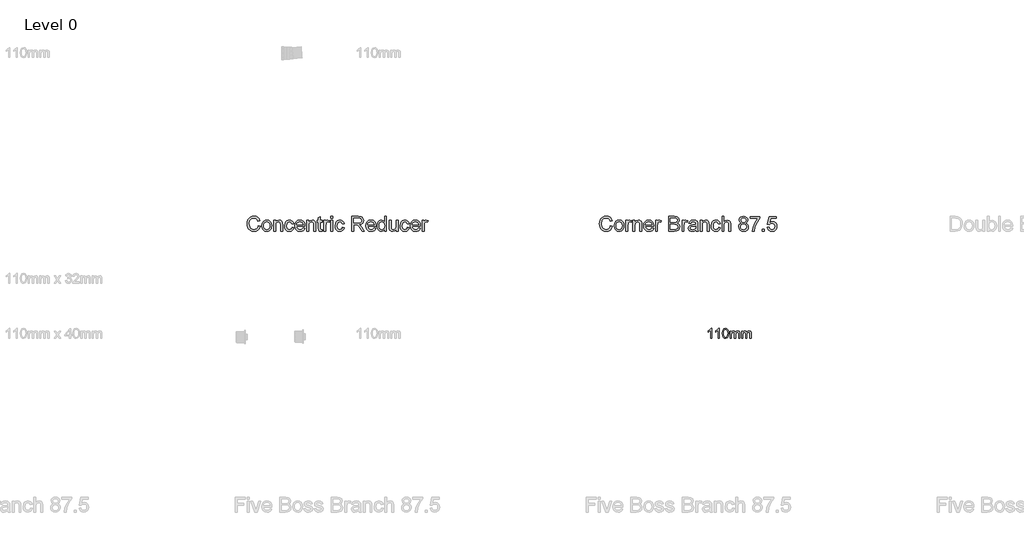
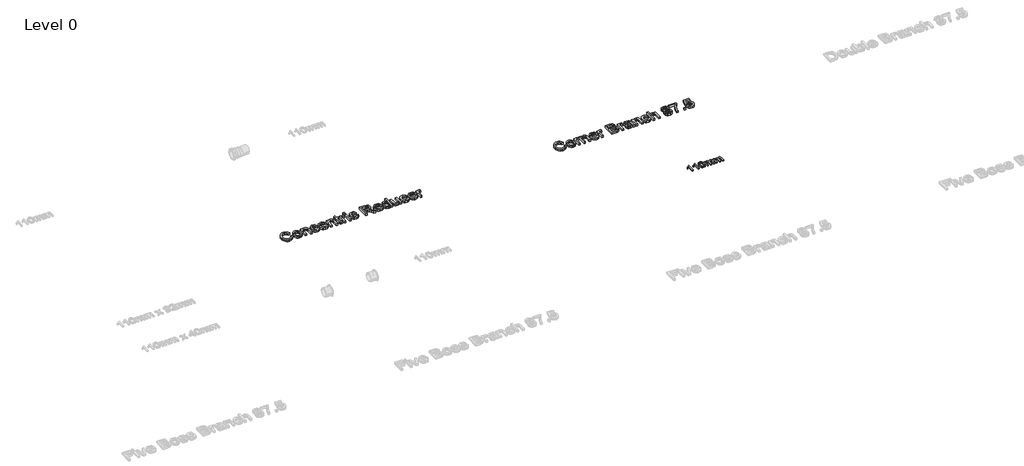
# One storey, part 18 of 23: 3 proxies.
"""IFC4 building model written with IfcOpenShell, lengths in millimetres."""

from ifc_helpers import new_model, si_unit, origin, origin_with_axes, place, context, project, spatial, polyline, outline, extrude, element, save

model = new_model("IFC4")

# Units and contexts
model_context = context("Model", 3, world=origin())
ifc_project = project(units=[si_unit("LENGTHUNIT", "METRE", prefix="MILLI")], contexts=[model_context])

# Site, building, storey
site = spatial("IfcSite", under=ifc_project)
building = spatial("IfcBuilding", under=site)
storey = spatial("IfcBuildingStorey", under=building, Name="Level 0", Elevation=0.0)

# Proxies
placement = place(None, origin())
element("IfcBuildingElementProxy", 1, Name="100mm Arial", ObjectType="100mm Arial", at=placement, inside=storey, context=model_context, shape_type="SweptSolid", body=[
    extrude(outline(polyline([(-3291.7293188, 5437.7167304), (-3304.0370111, 5437.7167304), (-3304.0370111, 5514.4474996), (-3315.6956649, 5506.1422111), (-3328.6523957, 5499.9282688), (-3328.6523957, 5511.5628842), (-3310.6115303, 5523.0773073), (-3299.6620111, 5536.1782688), (-3291.7293188, 5536.1782688), (-3291.7293188, 5437.7167304)])), origin_with_axes(), (0.0, 0.0, 1.0), 15.0),
    extrude(outline(polyline([(-3216.3447034, 5437.7167304), (-3228.6523957, 5437.7167304), (-3228.6523957, 5514.4474996), (-3240.3110495, 5506.1422111), (-3253.2677803, 5499.9282688), (-3253.2677803, 5511.5628842), (-3235.2269149, 5523.0773073), (-3224.2773957, 5536.1782688), (-3216.3447034, 5536.1782688), (-3216.3447034, 5437.7167304)])), origin_with_axes(), (0.0, 0.0, 1.0), 15.0),
    extrude(outline(polyline([(-3187.1139341, 5486.1542304), (-3183.4961457, 5514.4835573), (-3172.7509534, 5530.8176919), (-3154.8062418, 5536.1782688), (-3140.4312418, 5533.0051919), (-3130.5033572, 5523.8585573), (-3124.7341264, 5509.2912496), (-3122.4985495, 5486.1542304), (-3126.0802803, 5457.9450958), (-3136.7894149, 5441.5749035), (-3154.8062418, 5436.1782688), (-3167.5947034, 5438.5220188), (-3177.3062418, 5445.5532688), (-3184.6620111, 5462.2059131), (-3187.1139341, 5486.1542304)]), holes=[polyline([(-3174.8062418, 5486.1782688), (-3173.3639341, 5466.8182929), (-3169.0370111, 5455.613365), (-3162.5947034, 5450.2678121), (-3154.8062418, 5448.4859611), (-3147.0177803, 5450.2738217), (-3140.5754726, 5455.6374035), (-3136.2485495, 5466.848341), (-3134.8062418, 5486.1782688), (-3136.2004726, 5505.1025477), (-3140.3831649, 5516.394615), (-3146.8134534, 5522.0015861), (-3154.9504726, 5523.8705765), (-3162.6547995, 5522.2239419), (-3168.8447034, 5517.2840381), (-3173.3158572, 5505.2888458), (-3174.8062418, 5486.1782688)])]), origin_with_axes(), (0.0, 0.0, 1.0), 15.0),
    extrude(outline(polyline([(-3108.6523957, 5437.7167304), (-3108.6523957, 5510.0244227), (-3096.3447034, 5510.0244227), (-3096.3447034, 5498.1253842), (-3087.8831649, 5507.8729804), (-3075.8398957, 5511.5628842), (-3063.5081649, 5507.800865), (-3056.7293188, 5497.2599996), (-3047.1259534, 5507.9871631), (-3034.9985495, 5511.5628842), (-3025.7467466, 5510.0755044), (-3018.9047995, 5505.613365), (-3014.6770351, 5498.0562736), (-3013.2677803, 5487.2840381), (-3013.2677803, 5437.7167304), (-3025.5754726, 5437.7167304), (-3025.5754726, 5481.9955765), (-3026.7172995, 5492.2720188), (-3030.8519149, 5497.332115), (-3037.8831649, 5499.2551919), (-3049.9865303, 5494.3273073), (-3054.8062418, 5478.5340381), (-3054.8062418, 5437.7167304), (-3067.1139341, 5437.7167304), (-3067.1139341, 5483.3657688), (-3069.9624918, 5495.2888458), (-3079.3014341, 5499.2551919), (-3088.4120111, 5496.6109611), (-3094.4697034, 5488.8705765), (-3096.3447034, 5474.1830765), (-3096.3447034, 5437.7167304), (-3108.6523957, 5437.7167304)])), origin_with_axes(), (0.0, 0.0, 1.0), 15.0),
    extrude(outline(polyline([(-2994.8062418, 5437.7167304), (-2994.8062418, 5510.0244227), (-2982.4985495, 5510.0244227), (-2982.4985495, 5498.1253842), (-2974.0370111, 5507.8729804), (-2961.9937418, 5511.5628842), (-2949.6620111, 5507.800865), (-2942.8831649, 5497.2599996), (-2933.2797995, 5507.9871631), (-2921.1523957, 5511.5628842), (-2911.9005928, 5510.0755044), (-2905.0586457, 5505.613365), (-2900.8308813, 5498.0562736), (-2899.4216264, 5487.2840381), (-2899.4216264, 5437.7167304), (-2911.7293188, 5437.7167304), (-2911.7293188, 5481.9955765), (-2912.8711457, 5492.2720188), (-2917.0057611, 5497.332115), (-2924.0370111, 5499.2551919), (-2936.1403764, 5494.3273073), (-2940.960088, 5478.5340381), (-2940.960088, 5437.7167304), (-2953.2677803, 5437.7167304), (-2953.2677803, 5483.3657688), (-2956.116338, 5495.2888458), (-2965.4552803, 5499.2551919), (-2974.5658572, 5496.6109611), (-2980.6235495, 5488.8705765), (-2982.4985495, 5474.1830765), (-2982.4985495, 5437.7167304), (-2994.8062418, 5437.7167304)])), origin_with_axes(), (0.0, 0.0, 1.0), 15.0),
])
element("IfcBuildingElementProxy", 2, Name="150mm Arial", ObjectType="150mm Arial", at=placement, inside=storey, context=model_context, shape_type="SweptSolid", body=[
    extrude(outline(polyline([(-7814.835682, 6557.7145219), (-7796.3741435, 6552.9549065), (-7804.8927733, 6531.4419859), (-7818.2611627, 6515.7253392), (-7835.8212589, 6506.111457), (-7856.9150089, 6502.9068296), (-7878.3287709, 6505.3317094), (-7895.33448, 6512.6063488), (-7908.3693358, 6524.478344), (-7917.8705377, 6540.6952911), (-7923.671319, 6559.760796), (-7925.6049127, 6580.1784642), (-7923.4189151, 6601.713921), (-7916.8609223, 6620.3106758), (-7906.2734824, 6635.3782839), (-7891.9991435, 6646.3263008), (-7875.070057, 6652.9924666), (-7856.5183743, 6655.2145219), (-7836.2764872, 6652.338921), (-7819.5412108, 6643.7121181), (-7806.8353815, 6629.8659642), (-7798.6818358, 6611.3323104), (-7817.1433743, 6606.9332719), (-7823.5436147, 6620.3963128), (-7832.287605, 6629.6315892), (-7843.4835185, 6634.9726349), (-7857.2395281, 6636.7529835), (-7873.0958983, 6634.7788248), (-7886.1217397, 6628.8563488), (-7896.0060546, 6619.6075508), (-7902.4378454, 6607.6544258), (-7907.1433743, 6580.2145219), (-7901.5724608, 6548.4116373), (-7894.4510666, 6536.5351349), (-7884.2287108, 6528.0931277), (-7871.9736026, 6523.049558), (-7858.7539512, 6521.3683681), (-7843.3437949, 6523.6580315), (-7830.5027493, 6530.5270219), (-7820.8077372, 6541.9032238), (-7814.835682, 6557.7145219)])), origin_with_axes(), (0.0, 0.0, 1.0), 25.0),
    extrude(outline(polyline([(-7777.912605, 6559.4452911), (-7773.9192156, 6585.5961325), (-7761.9390473, 6603.9765411), (-7747.1373647, 6612.9819498), (-7729.4150089, 6615.9837527), (-7710.0204776, 6612.3284041), (-7694.5291916, 6601.3623585), (-7684.374444, 6583.9510003), (-7680.9895281, 6560.9597142), (-7682.4859223, 6542.3088729), (-7686.975105, 6528.1111565), (-7694.3263671, 6517.4786445), (-7704.4089993, 6509.5234161), (-7716.3846603, 6504.5609762), (-7729.4150089, 6502.9068296), (-7749.0439151, 6506.5486565), (-7764.5171723, 6517.4741373), (-7774.5637469, 6535.2505796), (-7777.912605, 6559.4452911)]), holes=[polyline([(-7759.4510666, 6559.4813488), (-7757.3146483, 6542.7731157), (-7750.9053935, 6530.86957), (-7741.2599608, 6523.7436686), (-7729.4150089, 6521.3683681), (-7717.6241435, 6523.7571902), (-7707.9967397, 6530.9236565), (-7701.5874848, 6542.9849546), (-7699.4510666, 6560.0582719), (-7701.6010065, 6576.2797262), (-7708.0508262, 6588.0210123), (-7717.6917517, 6595.1469137), (-7729.4150089, 6597.5222142), (-7741.2599608, 6595.1559282), (-7750.9053935, 6588.05707), (-7757.3146483, 6576.1805676), (-7759.4510666, 6559.4813488)])]), origin_with_axes(), (0.0, 0.0, 1.0), 25.0),
    extrude(outline(polyline([(-7660.2202973, 6505.2145219), (-7660.2202973, 6613.6760604), (-7641.7587589, 6613.6760604), (-7641.7587589, 6598.5318296), (-7627.6421723, 6611.6207719), (-7608.3693358, 6615.9837527), (-7590.9354416, 6612.4681277), (-7579.0364031, 6603.2373585), (-7573.5015473, 6589.6616373), (-7572.5279897, 6571.8130796), (-7572.5279897, 6505.2145219), (-7590.9895281, 6505.2145219), (-7590.9895281, 6569.3250988), (-7593.116932, 6585.6592335), (-7600.6349608, 6594.2950508), (-7613.3092397, 6597.5222142), (-7624.1220401, 6595.7103152), (-7633.3392877, 6590.2746181), (-7639.6538911, 6579.7728152), (-7641.7587589, 6562.7625988), (-7641.7587589, 6505.2145219), (-7660.2202973, 6505.2145219)])), origin_with_axes(), (0.0, 0.0, 1.0), 25.0),
    extrude(outline(polyline([(-7477.912605, 6544.4452911), (-7459.4510666, 6542.1375988), (-7464.5983022, 6525.7178272), (-7474.2707781, 6513.3094738), (-7487.5580377, 6505.5074907), (-7503.5496243, 6502.9068296), (-7523.1875449, 6506.5351349), (-7538.5436147, 6517.4200508), (-7548.4549728, 6535.0838128), (-7551.7587589, 6559.0486565), (-7546.11573, 6589.7157238), (-7538.9943358, 6601.2136205), (-7528.9162108, 6609.4212527), (-7516.8594199, 6614.3431277), (-7503.8020281, 6615.9837527), (-7488.202569, 6613.7301469), (-7475.7311147, 6606.9693296), (-7466.7842997, 6596.0618777), (-7461.7587589, 6581.3683681), (-7480.2202973, 6579.0606758), (-7488.7839993, 6592.8888008), (-7503.6577973, 6597.5222142), (-7515.5883863, 6595.2415652), (-7525.0580377, 6588.3996181), (-7531.2374247, 6576.6267815), (-7533.2972204, 6559.5534642), (-7531.2824969, 6542.2502791), (-7525.2383262, 6530.4368777), (-7515.9399488, 6523.6354955), (-7504.162605, 6521.3683681), (-7494.6028094, 6522.7836325), (-7486.7647685, 6527.0294258), (-7481.0631459, 6534.213921), (-7477.912605, 6544.4452911)])), origin_with_axes(), (0.0, 0.0, 1.0), 25.0),
    extrude(outline(polyline([(-7367.3597204, 6537.5222142), (-7349.2587589, 6535.2145219), (-7355.780694, 6521.5756998), (-7366.1878454, 6511.3803873), (-7380.2458382, 6505.025219), (-7397.7202973, 6502.9068296), (-7419.381956, 6506.5621782), (-7436.0496243, 6517.5282238), (-7446.6776291, 6535.0928272), (-7450.2202973, 6558.5438488), (-7446.6415714, 6582.7836325), (-7435.9053935, 6600.9116373), (-7419.4630858, 6612.2157238), (-7398.7659704, 6615.9837527), (-7378.7133863, 6612.2247383), (-7362.6902493, 6600.947695), (-7352.1839392, 6582.8557479), (-7348.6818358, 6558.6520219), (-7348.7900089, 6553.6760604), (-7431.7587589, 6553.6760604), (-7428.5631459, 6539.8569498), (-7421.1397685, 6529.697695), (-7410.4261267, 6523.4506998), (-7397.3597204, 6521.3683681), (-7379.2587589, 6525.2265411), (-7367.3597204, 6537.5222142)]), holes=[polyline([(-7431.7587589, 6572.1375988), (-7367.1433743, 6572.1375988), (-7369.6403695, 6581.8912046), (-7374.5352012, 6588.8683681), (-7385.2984223, 6595.3587527), (-7398.8380858, 6597.5222142), (-7411.2824969, 6595.7959522), (-7421.5724608, 6590.6171661), (-7428.7254055, 6582.5447503), (-7431.7587589, 6572.1375988)])]), origin_with_axes(), (0.0, 0.0, 1.0), 25.0),
    extrude(outline(polyline([(-7330.2202973, 6505.2145219), (-7330.2202973, 6613.6760604), (-7311.7587589, 6613.6760604), (-7311.7587589, 6598.5318296), (-7297.6421723, 6611.6207719), (-7278.3693358, 6615.9837527), (-7260.9354416, 6612.4681277), (-7249.0364031, 6603.2373585), (-7243.5015473, 6589.6616373), (-7242.5279897, 6571.8130796), (-7242.5279897, 6505.2145219), (-7260.9895281, 6505.2145219), (-7260.9895281, 6569.3250988), (-7263.116932, 6585.6592335), (-7270.6349608, 6594.2950508), (-7283.3092397, 6597.5222142), (-7294.1220401, 6595.7103152), (-7303.3392877, 6590.2746181), (-7309.6538911, 6579.7728152), (-7311.7587589, 6562.7625988), (-7311.7587589, 6505.2145219), (-7330.2202973, 6505.2145219)])), origin_with_axes(), (0.0, 0.0, 1.0), 25.0),
    extrude(outline(polyline([(-7177.912605, 6520.6111565), (-7175.6049127, 6504.6736565), (-7189.4150089, 6502.9068296), (-7204.8837589, 6505.9717335), (-7212.600105, 6514.0125988), (-7214.835682, 6534.9621181), (-7214.835682, 6595.2145219), (-7228.6818358, 6595.2145219), (-7228.6818358, 6613.6760604), (-7214.835682, 6613.6760604), (-7214.835682, 6640.0342335), (-7196.3741435, 6650.8875988), (-7196.3741435, 6613.6760604), (-7177.912605, 6613.6760604), (-7177.912605, 6595.2145219), (-7196.3741435, 6595.2145219), (-7196.3741435, 6535.5029835), (-7195.4005858, 6525.9837527), (-7192.2455377, 6522.6123585), (-7185.9534704, 6521.3683681), (-7177.912605, 6520.6111565)])), origin_with_axes(), (0.0, 0.0, 1.0), 25.0),
    extrude(outline(polyline([(-7159.4510666, 6505.2145219), (-7159.4510666, 6613.6760604), (-7143.2972204, 6613.6760604), (-7143.2972204, 6597.6303873), (-7131.8308743, 6612.4140411), (-7120.2924127, 6615.9837527), (-7101.7587589, 6610.2866373), (-7107.9246243, 6593.7361565), (-7120.9053935, 6597.5222142), (-7131.3440954, 6593.8803873), (-7137.9967397, 6583.7842335), (-7140.9895281, 6562.2217335), (-7140.9895281, 6505.2145219), (-7159.4510666, 6505.2145219)])), origin_with_axes(), (0.0, 0.0, 1.0), 25.0),
    extrude(outline(polyline([(-7090.2202973, 6634.4452911), (-7090.2202973, 6652.9068296), (-7071.7587589, 6652.9068296), (-7071.7587589, 6634.4452911), (-7090.2202973, 6634.4452911)])), origin_with_axes(), (0.0, 0.0, 1.0), 25.0),
    extrude(outline(polyline([(-7090.2202973, 6505.2145219), (-7090.2202973, 6613.6760604), (-7071.7587589, 6613.6760604), (-7071.7587589, 6505.2145219), (-7090.2202973, 6505.2145219)])), origin_with_axes(), (0.0, 0.0, 1.0), 25.0),
    extrude(outline(polyline([(-6974.835682, 6544.4452911), (-6956.3741435, 6542.1375988), (-6961.5213791, 6525.7178272), (-6971.193855, 6513.3094738), (-6984.4811147, 6505.5074907), (-7000.4727012, 6502.9068296), (-7020.1106219, 6506.5351349), (-7035.4666916, 6517.4200508), (-7045.3780497, 6535.0838128), (-7048.6818358, 6559.0486565), (-7043.038807, 6589.7157238), (-7035.9174127, 6601.2136205), (-7025.8392877, 6609.4212527), (-7013.7824969, 6614.3431277), (-7000.725105, 6615.9837527), (-6985.1256459, 6613.7301469), (-6972.6541916, 6606.9693296), (-6963.7073767, 6596.0618777), (-6958.6818358, 6581.3683681), (-6977.1433743, 6579.0606758), (-6985.7070762, 6592.8888008), (-7000.5808743, 6597.5222142), (-7012.5114632, 6595.2415652), (-7021.9811147, 6588.3996181), (-7028.1605017, 6576.6267815), (-7030.2202973, 6559.5534642), (-7028.2055738, 6542.2502791), (-7022.1614031, 6530.4368777), (-7012.8630257, 6523.6354955), (-7001.085682, 6521.3683681), (-6991.5258863, 6522.7836325), (-6983.6878454, 6527.0294258), (-6977.9862228, 6534.213921), (-6974.835682, 6544.4452911)])), origin_with_axes(), (0.0, 0.0, 1.0), 25.0),
    extrude(outline(polyline([(-6880.2202973, 6505.2145219), (-6880.2202973, 6652.9068296), (-6816.5784704, 6652.9068296), (-6787.0291916, 6648.9224546), (-6777.9336387, 6643.4056277), (-6770.8753454, 6634.8238969), (-6766.3455978, 6624.1823705), (-6764.835682, 6612.4861565), (-6767.3371844, 6597.9368777), (-6774.8416916, 6585.8755796), (-6787.5745642, 6577.0324306), (-6805.7611627, 6572.1375988), (-6795.2683743, 6564.2409642), (-6780.304432, 6545.2385604), (-6755.6770281, 6505.2145219), (-6777.131355, 6505.2145219), (-6796.350105, 6535.8275027), (-6810.2323166, 6556.0919258), (-6819.9859223, 6565.6652431), (-6828.7659704, 6569.1808681), (-6839.475105, 6569.8299065), (-6861.7587589, 6569.8299065), (-6861.7587589, 6505.2145219), (-6880.2202973, 6505.2145219)]), holes=[polyline([(-6861.7587589, 6588.291445), (-6820.4366435, 6588.291445), (-6799.3609223, 6590.9056277), (-6787.3897685, 6599.2710123), (-6783.2972204, 6611.8010604), (-6785.248843, 6620.806469), (-6791.1037108, 6628.0630796), (-6801.1773286, 6632.8497383), (-6815.7852012, 6634.4452911), (-6861.7587589, 6634.4452911), (-6861.7587589, 6588.291445)])]), origin_with_axes(), (0.0, 0.0, 1.0), 25.0),
    extrude(outline(polyline([(-6658.898182, 6537.5222142), (-6640.7972204, 6535.2145219), (-6647.3191555, 6521.5756998), (-6657.726307, 6511.3803873), (-6671.7842997, 6505.025219), (-6689.2587589, 6502.9068296), (-6710.9204175, 6506.5621782), (-6727.5880858, 6517.5282238), (-6738.2160906, 6535.0928272), (-6741.7587589, 6558.5438488), (-6738.1800329, 6582.7836325), (-6727.443855, 6600.9116373), (-6711.0015473, 6612.2157238), (-6690.304432, 6615.9837527), (-6670.2518478, 6612.2247383), (-6654.2287108, 6600.947695), (-6643.7224007, 6582.8557479), (-6640.2202973, 6558.6520219), (-6640.3284704, 6553.6760604), (-6723.2972204, 6553.6760604), (-6720.1016074, 6539.8569498), (-6712.67823, 6529.697695), (-6701.9645882, 6523.4506998), (-6688.898182, 6521.3683681), (-6670.7972204, 6525.2265411), (-6658.898182, 6537.5222142)]), holes=[polyline([(-6723.2972204, 6572.1375988), (-6658.6818358, 6572.1375988), (-6661.178831, 6581.8912046), (-6666.0736627, 6588.8683681), (-6676.8368839, 6595.3587527), (-6690.3765473, 6597.5222142), (-6702.8209584, 6595.7959522), (-6713.1109223, 6590.6171661), (-6720.2638671, 6582.5447503), (-6723.2972204, 6572.1375988)])]), origin_with_axes(), (0.0, 0.0, 1.0), 25.0),
    extrude(outline(polyline([(-6554.835682, 6505.2145219), (-6554.835682, 6522.6303873), (-6567.0502252, 6507.837719), (-6583.9342397, 6502.9068296), (-6595.8693358, 6504.6916854), (-6606.7948166, 6510.0462527), (-6616.0436147, 6518.596433), (-6622.9486627, 6529.9681277), (-6627.2485425, 6543.7016012), (-6628.6818358, 6559.3371181), (-6623.3993839, 6588.7241373), (-6616.8008262, 6600.3797863), (-6607.570057, 6608.9525027), (-6596.405694, 6614.2259402), (-6584.006355, 6615.9837527), (-6566.9871243, 6610.9537046), (-6554.835682, 6597.8827911), (-6554.835682, 6652.9068296), (-6536.3741435, 6652.9068296), (-6536.3741435, 6505.2145219), (-6554.835682, 6505.2145219)]), holes=[polyline([(-6610.2202973, 6559.4092335), (-6608.1379656, 6542.7100147), (-6601.8909704, 6530.8335123), (-6592.8134464, 6523.7346541), (-6582.2395281, 6521.3683681), (-6571.6701171, 6523.6264811), (-6562.8224608, 6530.40082), (-6556.8323767, 6541.8175868), (-6554.835682, 6558.0029835), (-6556.8684344, 6575.698296), (-6562.9666916, 6587.9669258), (-6572.0397084, 6595.1333921), (-6582.9967397, 6597.5222142), (-6593.678831, 6595.2280436), (-6602.4318358, 6588.3455315), (-6608.273182, 6576.5231157), (-6610.2202973, 6559.4092335)])]), origin_with_axes(), (0.0, 0.0, 1.0), 25.0),
    extrude(outline(polyline([(-6439.4510666, 6505.2145219), (-6439.4510666, 6523.8563488), (-6453.9102012, 6508.1442094), (-6472.7683743, 6502.9068296), (-6490.1301531, 6506.5847142), (-6502.101307, 6515.8154835), (-6507.600105, 6529.4092335), (-6508.6818358, 6546.572695), (-6508.6818358, 6613.6760604), (-6490.2202973, 6613.6760604), (-6490.2202973, 6555.2625988), (-6489.1025089, 6536.4404835), (-6481.8008262, 6525.3888008), (-6468.0448166, 6521.3683681), (-6452.6301531, 6525.478945), (-6442.443855, 6536.6748585), (-6439.4510666, 6557.2457719), (-6439.4510666, 6613.6760604), (-6420.9895281, 6613.6760604), (-6420.9895281, 6505.2145219), (-6439.4510666, 6505.2145219)])), origin_with_axes(), (0.0, 0.0, 1.0), 25.0),
    extrude(outline(polyline([(-6326.3741435, 6544.4452911), (-6307.912605, 6542.1375988), (-6313.0598406, 6525.7178272), (-6322.7323166, 6513.3094738), (-6336.0195762, 6505.5074907), (-6352.0111627, 6502.9068296), (-6371.6490834, 6506.5351349), (-6387.0051531, 6517.4200508), (-6396.9165113, 6535.0838128), (-6400.2202973, 6559.0486565), (-6394.5772685, 6589.7157238), (-6387.4558743, 6601.2136205), (-6377.3777493, 6609.4212527), (-6365.3209584, 6614.3431277), (-6352.2635666, 6615.9837527), (-6336.6641074, 6613.7301469), (-6324.1926531, 6606.9693296), (-6315.2458382, 6596.0618777), (-6310.2202973, 6581.3683681), (-6328.6818358, 6579.0606758), (-6337.2455377, 6592.8888008), (-6352.1193358, 6597.5222142), (-6364.0499247, 6595.2415652), (-6373.5195762, 6588.3996181), (-6379.6989632, 6576.6267815), (-6381.7587589, 6559.5534642), (-6379.7440353, 6542.2502791), (-6373.6998647, 6530.4368777), (-6364.4014872, 6523.6354955), (-6352.6241435, 6521.3683681), (-6343.0643478, 6522.7836325), (-6335.226307, 6527.0294258), (-6329.5246844, 6534.213921), (-6326.3741435, 6544.4452911)])), origin_with_axes(), (0.0, 0.0, 1.0), 25.0),
    extrude(outline(polyline([(-6215.8212589, 6537.5222142), (-6197.7202973, 6535.2145219), (-6204.2422324, 6521.5756998), (-6214.6493839, 6511.3803873), (-6228.7073767, 6505.025219), (-6246.1818358, 6502.9068296), (-6267.8434945, 6506.5621782), (-6284.5111627, 6517.5282238), (-6295.1391675, 6535.0928272), (-6298.6818358, 6558.5438488), (-6295.1031098, 6582.7836325), (-6284.366932, 6600.9116373), (-6267.9246243, 6612.2157238), (-6247.2275089, 6615.9837527), (-6227.1749247, 6612.2247383), (-6211.1517877, 6600.947695), (-6200.6454776, 6582.8557479), (-6197.1433743, 6558.6520219), (-6197.2515473, 6553.6760604), (-6280.2202973, 6553.6760604), (-6277.0246844, 6539.8569498), (-6269.601307, 6529.697695), (-6258.8876651, 6523.4506998), (-6245.8212589, 6521.3683681), (-6227.7202973, 6525.2265411), (-6215.8212589, 6537.5222142)]), holes=[polyline([(-6280.2202973, 6572.1375988), (-6215.6049127, 6572.1375988), (-6218.1019079, 6581.8912046), (-6222.9967397, 6588.8683681), (-6233.7599608, 6595.3587527), (-6247.2996243, 6597.5222142), (-6259.7440353, 6595.7959522), (-6270.0339993, 6590.6171661), (-6277.186944, 6582.5447503), (-6280.2202973, 6572.1375988)])]), origin_with_axes(), (0.0, 0.0, 1.0), 25.0),
    extrude(outline(polyline([(-6178.6818358, 6505.2145219), (-6178.6818358, 6613.6760604), (-6162.5279897, 6613.6760604), (-6162.5279897, 6597.6303873), (-6151.0616435, 6612.4140411), (-6139.523182, 6615.9837527), (-6120.9895281, 6610.2866373), (-6127.1553935, 6593.7361565), (-6140.1361627, 6597.5222142), (-6150.5748647, 6593.8803873), (-6157.2275089, 6583.7842335), (-6160.2202973, 6562.2217335), (-6160.2202973, 6505.2145219), (-6178.6818358, 6505.2145219)])), origin_with_axes(), (0.0, 0.0, 1.0), 25.0),
])
element("IfcBuildingElementProxy", 3, Name="150mm Arial", ObjectType="150mm Arial", at=placement, inside=storey, context=model_context, shape_type="SweptSolid", body=[
    extrude(outline(polyline([(-4302.1433743, 6557.7145219), (-4283.6818358, 6552.9549065), (-4292.2004656, 6531.4419859), (-4305.568855, 6515.7253392), (-4323.1289512, 6506.111457), (-4344.2227012, 6502.9068296), (-4365.6364632, 6505.3317094), (-4382.6421723, 6512.6063488), (-4395.6770281, 6524.478344), (-4405.17823, 6540.6952911), (-4410.9790113, 6559.760796), (-4412.912605, 6580.1784642), (-4410.7266074, 6601.713921), (-4404.1686147, 6620.3106758), (-4393.5811747, 6635.3782839), (-4379.3068358, 6646.3263008), (-4362.3777493, 6652.9924666), (-4343.8260666, 6655.2145219), (-4323.5841796, 6652.338921), (-4306.8489031, 6643.7121181), (-4294.1430738, 6629.8659642), (-4285.9895281, 6611.3323104), (-4304.4510666, 6606.9332719), (-4310.851307, 6620.3963128), (-4319.5952973, 6629.6315892), (-4330.7912108, 6634.9726349), (-4344.5472204, 6636.7529835), (-4360.4035906, 6634.7788248), (-4373.429432, 6628.8563488), (-4383.3137469, 6619.6075508), (-4389.7455377, 6607.6544258), (-4394.4510666, 6580.2145219), (-4388.8801531, 6548.4116373), (-4381.7587589, 6536.5351349), (-4371.5364031, 6528.0931277), (-4359.2812949, 6523.049558), (-4346.0616435, 6521.3683681), (-4330.6514872, 6523.6580315), (-4317.8104416, 6530.5270219), (-4308.1154296, 6541.9032238), (-4302.1433743, 6557.7145219)])), origin_with_axes(), (0.0, 0.0, 1.0), 25.0),
    extrude(outline(polyline([(-4265.2202973, 6559.4452911), (-4261.2269079, 6585.5961325), (-4249.2467397, 6603.9765411), (-4234.445057, 6612.9819498), (-4216.7227012, 6615.9837527), (-4197.3281699, 6612.3284041), (-4181.8368839, 6601.3623585), (-4171.6821363, 6583.9510003), (-4168.2972204, 6560.9597142), (-4169.7936147, 6542.3088729), (-4174.2827973, 6528.1111565), (-4181.6340594, 6517.4786445), (-4191.7166916, 6509.5234161), (-4203.6923526, 6504.5609762), (-4216.7227012, 6502.9068296), (-4236.3516074, 6506.5486565), (-4251.8248647, 6517.4741373), (-4261.8714392, 6535.2505796), (-4265.2202973, 6559.4452911)]), holes=[polyline([(-4246.7587589, 6559.4813488), (-4244.6223406, 6542.7731157), (-4238.2130858, 6530.86957), (-4228.5676531, 6523.7436686), (-4216.7227012, 6521.3683681), (-4204.9318358, 6523.7571902), (-4195.304432, 6530.9236565), (-4188.8951772, 6542.9849546), (-4186.7587589, 6560.0582719), (-4188.9086988, 6576.2797262), (-4195.3585185, 6588.0210123), (-4204.999444, 6595.1469137), (-4216.7227012, 6597.5222142), (-4228.5676531, 6595.1559282), (-4238.2130858, 6588.05707), (-4244.6223406, 6576.1805676), (-4246.7587589, 6559.4813488)])]), origin_with_axes(), (0.0, 0.0, 1.0), 25.0),
    extrude(outline(polyline([(-4147.5279897, 6505.2145219), (-4147.5279897, 6613.6760604), (-4131.3741435, 6613.6760604), (-4131.3741435, 6597.6303873), (-4119.9077973, 6612.4140411), (-4108.3693358, 6615.9837527), (-4089.835682, 6610.2866373), (-4096.0015473, 6593.7361565), (-4108.9823166, 6597.5222142), (-4119.4210185, 6593.8803873), (-4126.0736627, 6583.7842335), (-4129.0664512, 6562.2217335), (-4129.0664512, 6505.2145219), (-4147.5279897, 6505.2145219)])), origin_with_axes(), (0.0, 0.0, 1.0), 25.0),
    extrude(outline(polyline([(-4078.2972204, 6505.2145219), (-4078.2972204, 6613.6760604), (-4059.835682, 6613.6760604), (-4059.835682, 6598.5318296), (-4045.7190954, 6611.6207719), (-4026.4462589, 6615.9837527), (-4009.0123647, 6612.4681277), (-3997.1133262, 6603.2373585), (-3991.5784704, 6589.6616373), (-3990.6049127, 6571.8130796), (-3990.6049127, 6505.2145219), (-4009.0664512, 6505.2145219), (-4009.0664512, 6569.3250988), (-4011.193855, 6585.6592335), (-4018.7118839, 6594.2950508), (-4031.3861627, 6597.5222142), (-4042.1989632, 6595.7103152), (-4051.4162108, 6590.2746181), (-4057.7308142, 6579.7728152), (-4059.835682, 6562.7625988), (-4059.835682, 6505.2145219), (-4078.2972204, 6505.2145219)])), origin_with_axes(), (0.0, 0.0, 1.0), 25.0),
    extrude(outline(polyline([(-3889.2827973, 6537.5222142), (-3871.1818358, 6535.2145219), (-3877.7037709, 6521.5756998), (-3888.1109223, 6511.3803873), (-3902.1689151, 6505.025219), (-3919.6433743, 6502.9068296), (-3941.3050329, 6506.5621782), (-3957.9727012, 6517.5282238), (-3968.600706, 6535.0928272), (-3972.1433743, 6558.5438488), (-3968.5646483, 6582.7836325), (-3957.8284704, 6600.9116373), (-3941.3861627, 6612.2157238), (-3920.6890473, 6615.9837527), (-3900.6364632, 6612.2247383), (-3884.6133262, 6600.947695), (-3874.1070161, 6582.8557479), (-3870.6049127, 6558.6520219), (-3870.7130858, 6553.6760604), (-3953.6818358, 6553.6760604), (-3950.4862228, 6539.8569498), (-3943.0628454, 6529.697695), (-3932.3492036, 6523.4506998), (-3919.2827973, 6521.3683681), (-3901.1818358, 6525.2265411), (-3889.2827973, 6537.5222142)]), holes=[polyline([(-3953.6818358, 6572.1375988), (-3889.0664512, 6572.1375988), (-3891.5634464, 6581.8912046), (-3896.4582781, 6588.8683681), (-3907.2214993, 6595.3587527), (-3920.7611627, 6597.5222142), (-3933.2055738, 6595.7959522), (-3943.4955377, 6590.6171661), (-3950.6484824, 6582.5447503), (-3953.6818358, 6572.1375988)])]), origin_with_axes(), (0.0, 0.0, 1.0), 25.0),
    extrude(outline(polyline([(-3852.1433743, 6505.2145219), (-3852.1433743, 6613.6760604), (-3835.9895281, 6613.6760604), (-3835.9895281, 6597.6303873), (-3824.523182, 6612.4140411), (-3812.9847204, 6615.9837527), (-3794.4510666, 6610.2866373), (-3800.616932, 6593.7361565), (-3813.5977012, 6597.5222142), (-3824.0364031, 6593.8803873), (-3830.6890473, 6583.7842335), (-3833.6818358, 6562.2217335), (-3833.6818358, 6505.2145219), (-3852.1433743, 6505.2145219)])), origin_with_axes(), (0.0, 0.0, 1.0), 25.0),
    extrude(outline(polyline([(-3722.912605, 6505.2145219), (-3722.912605, 6652.9068296), (-3666.554432, 6652.9068296), (-3638.9522685, 6648.5618777), (-3629.6764272, 6643.049558), (-3622.6541916, 6635.2025027), (-3616.7587589, 6616.3082719), (-3621.7166916, 6599.0546661), (-3636.6986627, 6585.9837527), (-3626.2374247, 6580.5210123), (-3618.507557, 6572.2097142), (-3613.7344199, 6561.5997383), (-3612.1433743, 6549.2409642), (-3616.4883262, 6529.3912046), (-3627.2515473, 6515.2565892), (-3643.3152493, 6507.7565892), (-3666.9871243, 6505.2145219), (-3722.912605, 6505.2145219)]), holes=[polyline([(-3704.4510666, 6523.6760604), (-3666.5904897, 6523.6760604), (-3652.8885666, 6524.3972142), (-3641.2960185, 6528.4176469), (-3633.61573, 6536.6207719), (-3630.6049127, 6549.0606758), (-3634.1385666, 6563.4116373), (-3645.5868839, 6571.9753392), (-3668.3933743, 6574.4452911), (-3704.4510666, 6574.4452911), (-3704.4510666, 6523.6760604)]), polyline([(-3704.4510666, 6592.9068296), (-3670.7371243, 6592.9068296), (-3651.0496243, 6594.4933681), (-3639.2046723, 6601.3263008), (-3635.2202973, 6613.3515411), (-3638.9342397, 6625.3948104), (-3649.5712589, 6632.5162046), (-3673.2972204, 6634.4452911), (-3704.4510666, 6634.4452911), (-3704.4510666, 6592.9068296)])]), origin_with_axes(), (0.0, 0.0, 1.0), 25.0),
    extrude(outline(polyline([(-3589.0664512, 6505.2145219), (-3589.0664512, 6613.6760604), (-3572.912605, 6613.6760604), (-3572.912605, 6597.6303873), (-3561.4462589, 6612.4140411), (-3549.9077973, 6615.9837527), (-3531.3741435, 6610.2866373), (-3537.5400089, 6593.7361565), (-3550.5207781, 6597.5222142), (-3560.95948, 6593.8803873), (-3567.6121243, 6583.7842335), (-3570.6049127, 6562.2217335), (-3570.6049127, 6505.2145219), (-3589.0664512, 6505.2145219)])), origin_with_axes(), (0.0, 0.0, 1.0), 25.0),
    extrude(outline(polyline([(-3450.6049127, 6519.0606758), (-3468.507557, 6506.5486565), (-3488.2852012, 6502.9068296), (-3503.7133863, 6505.0973344), (-3515.0940954, 6511.6688488), (-3522.1118238, 6521.6478152), (-3524.4510666, 6534.0606758), (-3520.9174127, 6548.6640411), (-3511.632557, 6559.2650027), (-3498.7058743, 6565.322695), (-3482.7323166, 6568.0991373), (-3450.7130858, 6574.4452911), (-3450.6049127, 6578.5558681), (-3451.8759464, 6586.7950508), (-3455.6890473, 6592.1856758), (-3464.2166916, 6596.1880796), (-3476.0977012, 6597.5222142), (-3494.7755858, 6593.9705315), (-3503.6818358, 6581.3683681), (-3522.1433743, 6583.6760604), (-3514.1565954, 6601.7049065), (-3498.0748647, 6612.2698104), (-3473.7178935, 6615.9837527), (-3451.3440954, 6612.7025027), (-3438.7058743, 6604.46332), (-3433.0448166, 6591.9332719), (-3432.1433743, 6575.7794258), (-3432.1433743, 6552.8106758), (-3431.2058743, 6520.7373585), (-3427.5279897, 6505.2145219), (-3445.9895281, 6505.2145219), (-3450.6049127, 6519.0606758)]), holes=[polyline([(-3450.6049127, 6555.9837527), (-3480.3885666, 6550.322695), (-3496.27198, 6547.3299065), (-3503.4654897, 6542.4621181), (-3505.9895281, 6535.3587527), (-3500.49073, 6525.3707719), (-3484.3549127, 6521.3683681), (-3465.6770281, 6525.7854354), (-3453.6337589, 6536.4765411), (-3450.7130858, 6550.7553873), (-3450.6049127, 6555.9837527)])]), origin_with_axes(), (0.0, 0.0, 1.0), 25.0),
    extrude(outline(polyline([(-3406.7587589, 6505.2145219), (-3406.7587589, 6613.6760604), (-3388.2972204, 6613.6760604), (-3388.2972204, 6598.5318296), (-3374.1806339, 6611.6207719), (-3354.9077973, 6615.9837527), (-3337.4739031, 6612.4681277), (-3325.5748647, 6603.2373585), (-3320.0400089, 6589.6616373), (-3319.0664512, 6571.8130796), (-3319.0664512, 6505.2145219), (-3337.5279897, 6505.2145219), (-3337.5279897, 6569.3250988), (-3339.6553935, 6585.6592335), (-3347.1734223, 6594.2950508), (-3359.8477012, 6597.5222142), (-3370.6605017, 6595.7103152), (-3379.8777493, 6590.2746181), (-3386.1923526, 6579.7728152), (-3388.2972204, 6562.7625988), (-3388.2972204, 6505.2145219), (-3406.7587589, 6505.2145219)])), origin_with_axes(), (0.0, 0.0, 1.0), 25.0),
    extrude(outline(polyline([(-3224.4510666, 6544.4452911), (-3205.9895281, 6542.1375988), (-3211.1367637, 6525.7178272), (-3220.8092397, 6513.3094738), (-3234.0964993, 6505.5074907), (-3250.0880858, 6502.9068296), (-3269.7260065, 6506.5351349), (-3285.0820762, 6517.4200508), (-3294.9934344, 6535.0838128), (-3298.2972204, 6559.0486565), (-3292.6541916, 6589.7157238), (-3285.5327973, 6601.2136205), (-3275.4546723, 6609.4212527), (-3263.3978815, 6614.3431277), (-3250.3404897, 6615.9837527), (-3234.7410305, 6613.7301469), (-3222.2695762, 6606.9693296), (-3213.3227613, 6596.0618777), (-3208.2972204, 6581.3683681), (-3226.7587589, 6579.0606758), (-3235.3224608, 6592.8888008), (-3250.1962589, 6597.5222142), (-3262.1268478, 6595.2415652), (-3271.5964993, 6588.3996181), (-3277.7758863, 6576.6267815), (-3279.835682, 6559.5534642), (-3277.8209584, 6542.2502791), (-3271.7767877, 6530.4368777), (-3262.4784103, 6523.6354955), (-3250.7010666, 6521.3683681), (-3241.1412709, 6522.7836325), (-3233.30323, 6527.0294258), (-3227.6016074, 6534.213921), (-3224.4510666, 6544.4452911)])), origin_with_axes(), (0.0, 0.0, 1.0), 25.0),
    extrude(outline(polyline([(-3189.835682, 6505.2145219), (-3189.835682, 6652.9068296), (-3171.3741435, 6652.9068296), (-3171.3741435, 6598.603945), (-3156.9781098, 6611.6388008), (-3139.2467397, 6615.9837527), (-3118.5135666, 6611.2421661), (-3105.929432, 6598.135195), (-3102.1433743, 6573.8683681), (-3102.1433743, 6505.2145219), (-3120.6049127, 6505.2145219), (-3120.6049127, 6571.9573104), (-3122.0742637, 6583.5138008), (-3126.4823166, 6591.4284642), (-3133.585682, 6595.9987767), (-3143.1409704, 6597.5222142), (-3158.2671723, 6593.4116373), (-3168.3633262, 6582.2698104), (-3171.3741435, 6562.8347142), (-3171.3741435, 6505.2145219), (-3189.835682, 6505.2145219)])), origin_with_axes(), (0.0, 0.0, 1.0), 25.0),
    extrude(outline(polyline([(-2996.7827973, 6586.5606758), (-3013.6037108, 6598.0270219), (-3019.0664512, 6615.8755796), (-3016.0916916, 6630.307671), (-3007.1674127, 6642.2337527), (-2993.2942156, 6650.2385604), (-2975.4727012, 6652.9068296), (-2957.5430137, 6650.1754594), (-2943.4895281, 6641.9813488), (-2934.4029897, 6629.8659642), (-2931.3741435, 6615.3707719), (-2936.7647685, 6597.9729354), (-2953.116932, 6586.5606758), (-2941.7542517, 6580.705808), (-2933.4835185, 6572.0835123), (-2928.4399488, 6561.1084522), (-2926.7587589, 6548.1952911), (-2930.0940954, 6530.5450508), (-2940.100105, 6515.9597142), (-2955.5508262, 6506.1700508), (-2975.2202973, 6502.9068296), (-2994.8897685, 6506.1835724), (-3010.3404897, 6516.0138008), (-3020.3464993, 6530.7388609), (-3023.6818358, 6548.7000988), (-3021.9330377, 6562.1135604), (-3016.6866435, 6573.1472142), (-3008.2130858, 6581.4224546), (-2996.7827973, 6586.5606758)]), holes=[polyline([(-3005.2202973, 6549.3491373), (-3002.1373647, 6535.4488969), (-2991.2299127, 6525.0462527), (-2975.0760666, 6521.3683681), (-2962.5099608, 6523.3019618), (-2953.0808743, 6529.1027431), (-2947.1854416, 6537.8872984), (-2945.2202973, 6548.7722142), (-2947.2485425, 6559.8419258), (-2953.3332781, 6568.8202911), (-2962.9787108, 6574.7698104), (-2975.6890473, 6576.7529835), (-2988.0793719, 6574.7968536), (-2997.413807, 6568.9284642), (-3003.2686747, 6560.1213729), (-3005.2202973, 6549.3491373)]), polyline([(-3000.6049127, 6615.3347142), (-2998.9687949, 6607.27582), (-2994.0604416, 6600.8395219), (-2986.0240834, 6596.6207719), (-2975.0039512, 6595.2145219), (-2964.24073, 6596.6117575), (-2956.3260666, 6600.8034642), (-2951.4582781, 6607.0234161), (-2949.835682, 6614.5053873), (-2951.5123647, 6622.2713128), (-2956.5424127, 6628.6940892), (-2964.5652493, 6633.0074907), (-2975.2202973, 6634.4452911), (-2985.9429536, 6633.0390411), (-2993.9522685, 6628.8202911), (-2998.9417517, 6622.6363969), (-3000.6049127, 6615.3347142)])]), origin_with_axes(), (0.0, 0.0, 1.0), 25.0),
    extrude(outline(polyline([(-2910.6049127, 6632.1375988), (-2910.6049127, 6650.5991373), (-2813.6818358, 6650.5991373), (-2813.6818358, 6635.6712527), (-2841.1758262, 6595.9537046), (-2862.2154897, 6545.3467335), (-2869.0664512, 6505.2145219), (-2887.5279897, 6505.2145219), (-2880.1902493, 6546.8611565), (-2860.0520281, 6593.9344738), (-2832.1433743, 6632.1375988), (-2910.6049127, 6632.1375988)])), origin_with_axes(), (0.0, 0.0, 1.0), 25.0),
    extrude(outline(polyline([(-2788.2972204, 6505.2145219), (-2788.2972204, 6523.6760604), (-2769.835682, 6523.6760604), (-2769.835682, 6505.2145219), (-2788.2972204, 6505.2145219)])), origin_with_axes(), (0.0, 0.0, 1.0), 25.0),
    extrude(outline(polyline([(-2739.835682, 6544.4452911), (-2721.3741435, 6546.7529835), (-2717.9847204, 6535.6697503), (-2712.0712589, 6527.7325508), (-2703.6608022, 6522.9594137), (-2692.7803935, 6521.3683681), (-2679.5472204, 6523.5814089), (-2669.631355, 6530.2205315), (-2663.4384464, 6540.5195099), (-2661.3741435, 6553.7121181), (-2663.3077372, 6566.1339931), (-2669.1085185, 6575.635195), (-2678.8215594, 6581.665844), (-2692.491932, 6583.6760604), (-2708.6998647, 6580.4669258), (-2719.0664512, 6572.1375988), (-2737.5279897, 6574.4452911), (-2721.3741435, 6650.5991373), (-2649.835682, 6650.5991373), (-2649.835682, 6632.1375988), (-2706.4462589, 6632.1375988), (-2714.3428935, 6591.4645219), (-2701.1547925, 6599.4693296), (-2687.335682, 6602.1375988), (-2670.0865834, 6598.8293056), (-2655.7671723, 6588.9044258), (-2646.1262469, 6573.7782238), (-2642.912605, 6554.8659642), (-2645.8062348, 6536.4044258), (-2654.4871243, 6520.6111565), (-2671.1097204, 6507.3329113), (-2692.8525089, 6502.9068296), (-2710.9850209, 6505.7508801), (-2725.4306339, 6514.2830315), (-2735.3329776, 6527.5116974), (-2739.835682, 6544.4452911)])), origin_with_axes(), (0.0, 0.0, 1.0), 25.0),
])

save(model, "model.ifc")
